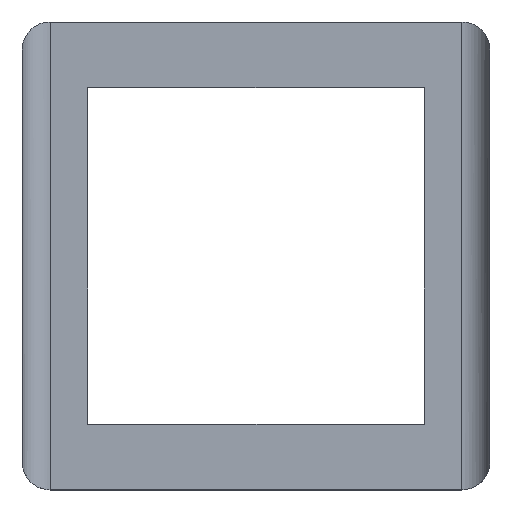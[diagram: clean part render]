
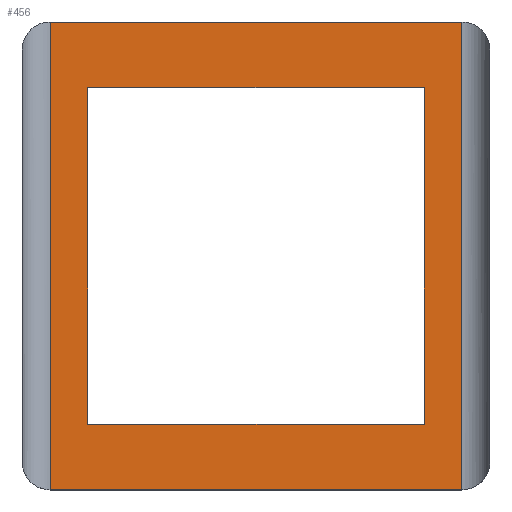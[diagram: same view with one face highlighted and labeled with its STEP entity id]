
A CAD part, top view. The second image highlights one B-rep face of the part: STEP entity #456.
In plain terms, the highlighted planar face has unit normal (0, 0, 1).
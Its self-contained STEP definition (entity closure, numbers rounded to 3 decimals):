
#1 = EDGE_CURVE ( 'NONE', #51, #216, #284, .T. ) ;
#2 = DIRECTION ( 'NONE',  ( -1., 0., 0. ) ) ;
#5 = CARTESIAN_POINT ( 'NONE',  ( -9., 9., 1.75 ) ) ;
#8 = VERTEX_POINT ( 'NONE', #149 ) ;
#10 = DIRECTION ( 'NONE',  ( -1., 0., 0. ) ) ;
#21 = CARTESIAN_POINT ( 'NONE',  ( 9., -9., 1.75 ) ) ;
#29 = LINE ( 'NONE', #294, #475 ) ;
#35 = FACE_BOUND ( 'NONE', #197, .T. ) ;
#41 = DIRECTION ( 'NONE',  ( 1., 0., 0. ) ) ;
#43 = VECTOR ( 'NONE', #244, 1000. ) ;
#51 = VERTEX_POINT ( 'NONE', #138 ) ;
#57 = VERTEX_POINT ( 'NONE', #527 ) ;
#72 = CARTESIAN_POINT ( 'NONE',  ( -11., 12.5, 1.75 ) ) ;
#84 = VERTEX_POINT ( 'NONE', #21 ) ;
#87 = CARTESIAN_POINT ( 'NONE',  ( -11., 12.5, 1.75 ) ) ;
#90 = VECTOR ( 'NONE', #491, 1000. ) ;
#121 = LINE ( 'NONE', #508, #223 ) ;
#122 = CARTESIAN_POINT ( 'NONE',  ( -11., -12.5, 1.75 ) ) ;
#127 = CARTESIAN_POINT ( 'NONE',  ( -9., -9., 1.75 ) ) ;
#138 = CARTESIAN_POINT ( 'NONE',  ( 11., 12.5, 1.75 ) ) ;
#149 = CARTESIAN_POINT ( 'NONE',  ( -11., -12.5, 1.75 ) ) ;
#154 = VECTOR ( 'NONE', #285, 1000. ) ;
#170 = DIRECTION ( 'NONE',  ( -1., 0., 0. ) ) ;
#173 = VECTOR ( 'NONE', #2, 1000. ) ;
#183 = ORIENTED_EDGE ( 'NONE', *, *, #1, .T. ) ;
#184 = EDGE_CURVE ( 'NONE', #245, #8, #29, .T. ) ;
#197 = EDGE_LOOP ( 'NONE', ( #409, #516, #434, #199 ) ) ;
#199 = ORIENTED_EDGE ( 'NONE', *, *, #289, .T. ) ;
#212 = CARTESIAN_POINT ( 'NONE',  ( 11., -12.5, 1.75 ) ) ;
#216 = VERTEX_POINT ( 'NONE', #72 ) ;
#217 = EDGE_LOOP ( 'NONE', ( #183, #474, #439, #234 ) ) ;
#223 = VECTOR ( 'NONE', #274, 1000. ) ;
#234 = ORIENTED_EDGE ( 'NONE', *, *, #493, .T. ) ;
#236 = PLANE ( 'NONE',  #511 ) ;
#244 = DIRECTION ( 'NONE',  ( 0., 1., 0. ) ) ;
#245 = VERTEX_POINT ( 'NONE', #212 ) ;
#246 = LINE ( 'NONE', #328, #457 ) ;
#259 = LINE ( 'NONE', #503, #43 ) ;
#262 = EDGE_CURVE ( 'NONE', #499, #57, #314, .T. ) ;
#274 = DIRECTION ( 'NONE',  ( 0., 1., 0. ) ) ;
#284 = LINE ( 'NONE', #87, #173 ) ;
#285 = DIRECTION ( 'NONE',  ( 0., 1., 0. ) ) ;
#289 = EDGE_CURVE ( 'NONE', #84, #459, #299, .T. ) ;
#294 = CARTESIAN_POINT ( 'NONE',  ( -11., -12.5, 1.75 ) ) ;
#299 = LINE ( 'NONE', #471, #90 ) ;
#314 = LINE ( 'NONE', #360, #530 ) ;
#328 = CARTESIAN_POINT ( 'NONE',  ( 9., -9., 1.75 ) ) ;
#351 = EDGE_CURVE ( 'NONE', #459, #499, #259, .T. ) ;
#360 = CARTESIAN_POINT ( 'NONE',  ( -9., 9., 1.75 ) ) ;
#374 = DIRECTION ( 'NONE',  ( 0., -1., 0. ) ) ;
#379 = EDGE_CURVE ( 'NONE', #8, #216, #473, .T. ) ;
#383 = EDGE_CURVE ( 'NONE', #57, #84, #246, .T. ) ;
#406 = CARTESIAN_POINT ( 'NONE',  ( -11., -12.5, 1.75 ) ) ;
#409 = ORIENTED_EDGE ( 'NONE', *, *, #351, .T. ) ;
#413 = DIRECTION ( 'NONE',  ( 0., 0., -1. ) ) ;
#434 = ORIENTED_EDGE ( 'NONE', *, *, #383, .T. ) ;
#439 = ORIENTED_EDGE ( 'NONE', *, *, #184, .F. ) ;
#456 = ADVANCED_FACE ( 'NONE', ( #35, #465 ), #236, .F. ) ;
#457 = VECTOR ( 'NONE', #374, 1000. ) ;
#459 = VERTEX_POINT ( 'NONE', #127 ) ;
#465 = FACE_OUTER_BOUND ( 'NONE', #217, .T. ) ;
#471 = CARTESIAN_POINT ( 'NONE',  ( -9., -9., 1.75 ) ) ;
#473 = LINE ( 'NONE', #122, #154 ) ;
#474 = ORIENTED_EDGE ( 'NONE', *, *, #379, .F. ) ;
#475 = VECTOR ( 'NONE', #10, 1000. ) ;
#491 = DIRECTION ( 'NONE',  ( -1., 0., 0. ) ) ;
#493 = EDGE_CURVE ( 'NONE', #245, #51, #121, .T. ) ;
#499 = VERTEX_POINT ( 'NONE', #5 ) ;
#503 = CARTESIAN_POINT ( 'NONE',  ( -9., -9., 1.75 ) ) ;
#508 = CARTESIAN_POINT ( 'NONE',  ( 11., -12.5, 1.75 ) ) ;
#511 = AXIS2_PLACEMENT_3D ( 'NONE', #406, #413, #170 ) ;
#516 = ORIENTED_EDGE ( 'NONE', *, *, #262, .T. ) ;
#527 = CARTESIAN_POINT ( 'NONE',  ( 9., 9., 1.75 ) ) ;
#530 = VECTOR ( 'NONE', #41, 1000. ) ;
